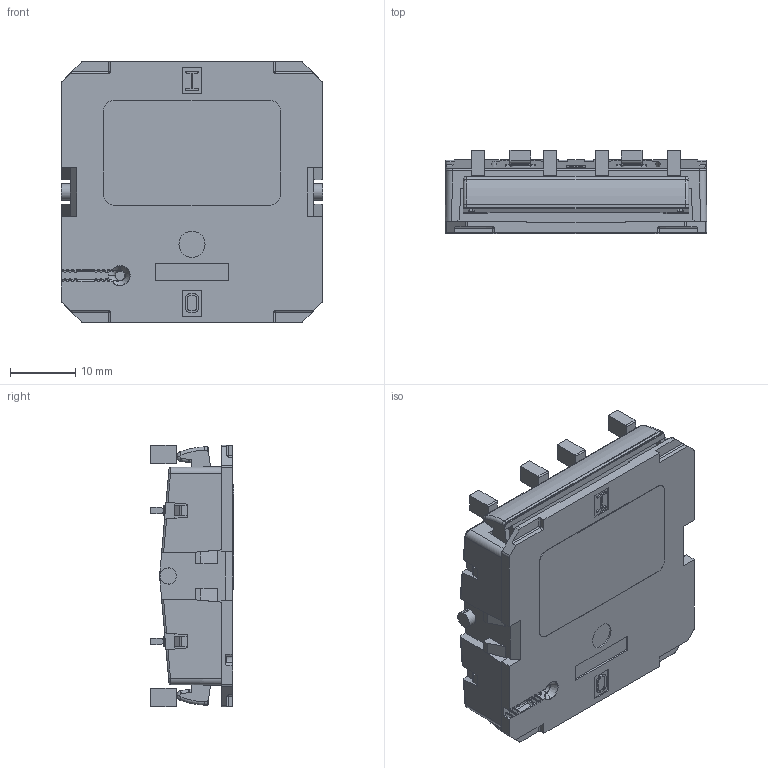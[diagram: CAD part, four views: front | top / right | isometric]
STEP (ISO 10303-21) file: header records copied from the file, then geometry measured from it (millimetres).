
FILE_DESCRIPTION (( 'STEP AP203' ), '1' );
FILE_NAME ('EinbauanweisungPTM210-Wippe_nicht-gedrückt_14-04-2020.STEP', '2020-04-20T18:52:02', ( '' ), ( '' ), 'SwSTEP 2.0', 'SolidWorks 2014', '' );
FILE_SCHEMA (( 'CONFIG_CONTROL_DESIGN' ));
Length unit declared in the file: millimetre
Products named in the file (3): PTM210_1_Block; EinbauanweisungPTM210-Wippe_nicht-gedrückt_14-04-2020; Wippe_Einbauanweisung
Assembly tree (2 placements, depth 2):
  EinbauanweisungPTM210-Wippe_nicht-gedrückt_14-04-2020
    PTM210_1_Block
    Wippe_Einbauanweisung
Bounding box: 40 x 12.7 x 40 mm (x, y, z)
Volume: 13964.5 mm3; surface area: 8923.2 mm2
Topology: 14 solids, 14 shells, 1155 faces, 3052 edges, 1941 vertices
Faces by surface type: plane 602, cylinder 405, bspline 73, torus 38, cone 23, sphere 14
Entity records: 38393 total; most frequent: CARTESIAN_POINT 10623, ORIENTED_EDGE 6068, DIRECTION 5256, EDGE_CURVE 3034, VECTOR 1974, LINE 1974, VERTEX_POINT 1941, AXIS2_PLACEMENT_3D 1641
